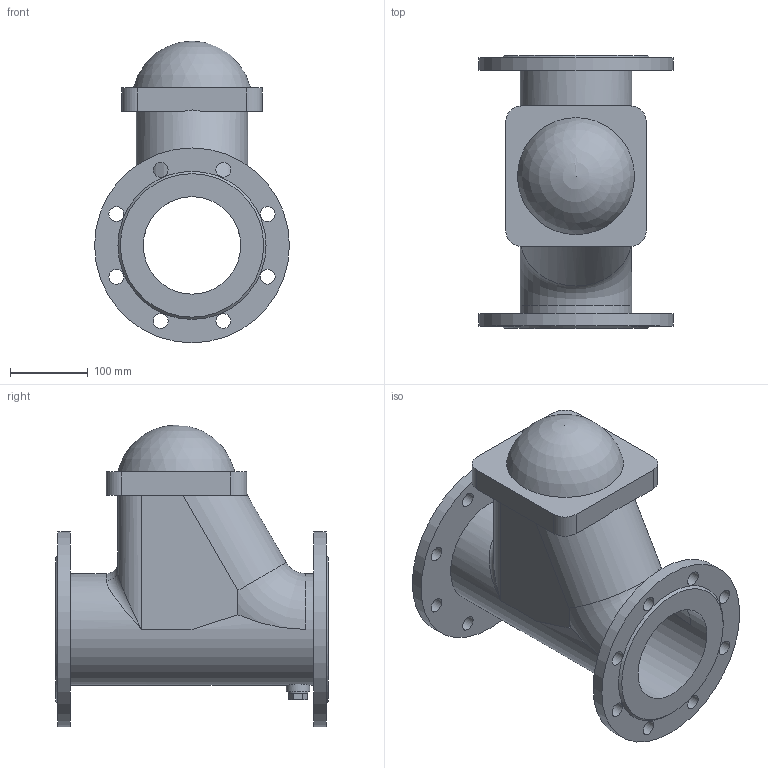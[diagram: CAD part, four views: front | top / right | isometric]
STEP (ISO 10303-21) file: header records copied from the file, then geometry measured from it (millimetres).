
FILE_DESCRIPTION(('STEP AP203'), '1');
FILE_NAME('Êëàïàí îáðàòíûé øàðîâîé ôëàíöåâûé 012F.Z DN125 PN10_16', '', ('UNSPECIFIED'), ('UNSPECIFIED'), 'ASCON STEP Converter 1.6', 'ASCON Math Kernel', '');
FILE_SCHEMA(('CONFIG_CONTROL_DESIGN'));
Length unit declared in the file: millimetre
Bounding box: 250 x 350 x 387 mm (x, y, z)
Volume: 6072686.4 mm3; surface area: 616121 mm2
Topology: 1 solids, 1 shells, 70 faces, 179 edges, 116 vertices
Faces by surface type: plane 32, cylinder 30, torus 3, bspline 2, cone 2, sphere 1
Full cylindrical faces by diameter (mm): 19 x16, 25 x1, 30 x1, 125 x1, 143 x1, 250 x2
Entity records: 3878 total; most frequent: CARTESIAN_POINT 1632, DIRECTION 333, ORIENTED_EDGE 298, EDGE_CURVE 149, AXIS2_PLACEMENT_3D 138, EDGE_LOOP 138, VERTEX_POINT 115, FACE_BOUND 89
